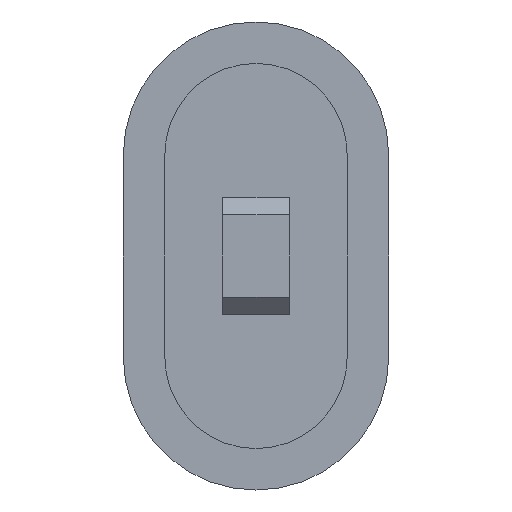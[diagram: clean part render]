
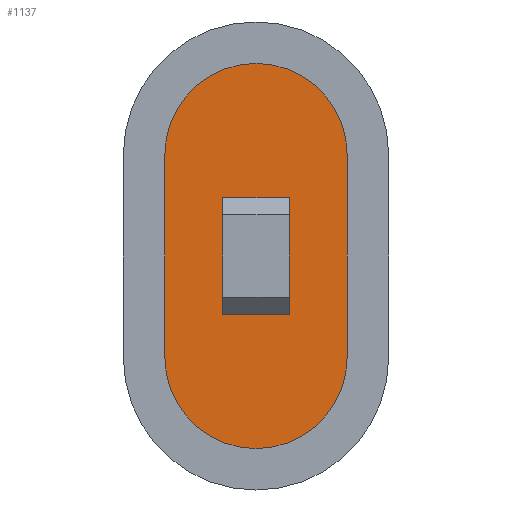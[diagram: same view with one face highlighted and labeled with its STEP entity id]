
A CAD part, front view. The second image highlights one B-rep face of the part: STEP entity #1137.
In plain terms, the highlighted planar face has unit normal (0, -1, 0).
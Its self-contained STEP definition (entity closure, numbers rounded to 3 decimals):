
#60=FACE_BOUND('',#201,.T.);
#127=FACE_OUTER_BOUND('',#200,.T.);
#200=EDGE_LOOP('',(#968,#969,#970,#971));
#201=EDGE_LOOP('',(#972,#973,#974,#975));
#208=CIRCLE('',#1182,5.5);
#209=CIRCLE('',#1185,5.5);
#295=LINE('',#1719,#377);
#301=LINE('',#1731,#383);
#304=LINE('',#1736,#386);
#305=LINE('',#1738,#387);
#308=LINE('',#1747,#390);
#311=LINE('',#1754,#393);
#377=VECTOR('',#1353,10.);
#383=VECTOR('',#1365,10.);
#386=VECTOR('',#1370,10.);
#387=VECTOR('',#1373,10.);
#390=VECTOR('',#1382,10.);
#393=VECTOR('',#1391,10.);
#460=VERTEX_POINT('',#1716);
#461=VERTEX_POINT('',#1718);
#464=VERTEX_POINT('',#1730);
#465=VERTEX_POINT('',#1734);
#466=VERTEX_POINT('',#1740);
#467=VERTEX_POINT('',#1742);
#468=VERTEX_POINT('',#1746);
#469=VERTEX_POINT('',#1750);
#557=EDGE_CURVE('',#461,#460,#295,.T.);
#563=EDGE_CURVE('',#464,#461,#301,.T.);
#566=EDGE_CURVE('',#460,#465,#304,.T.);
#567=EDGE_CURVE('',#465,#464,#305,.T.);
#569=EDGE_CURVE('',#467,#466,#208,.T.);
#571=EDGE_CURVE('',#468,#467,#308,.T.);
#573=EDGE_CURVE('',#469,#468,#209,.T.);
#575=EDGE_CURVE('',#466,#469,#311,.T.);
#968=ORIENTED_EDGE('',*,*,#569,.T.);
#969=ORIENTED_EDGE('',*,*,#575,.T.);
#970=ORIENTED_EDGE('',*,*,#573,.T.);
#971=ORIENTED_EDGE('',*,*,#571,.T.);
#972=ORIENTED_EDGE('',*,*,#563,.T.);
#973=ORIENTED_EDGE('',*,*,#557,.T.);
#974=ORIENTED_EDGE('',*,*,#566,.T.);
#975=ORIENTED_EDGE('',*,*,#567,.T.);
#1002=PLANE('',#1295);
#1137=ADVANCED_FACE('',(#127,#60),#1002,.T.);
#1182=AXIS2_PLACEMENT_3D('',#1743,#1377,#1378);
#1185=AXIS2_PLACEMENT_3D('',#1751,#1386,#1387);
#1295=AXIS2_PLACEMENT_3D('',#1959,#1648,#1649);
#1353=DIRECTION('',(0.,0.,-1.));
#1365=DIRECTION('',(1.,0.,0.));
#1370=DIRECTION('',(-1.,0.,0.));
#1373=DIRECTION('',(0.,0.,1.));
#1377=DIRECTION('center_axis',(0.,-1.,0.));
#1378=DIRECTION('ref_axis',(-1.,0.,0.));
#1382=DIRECTION('',(0.,0.,1.));
#1386=DIRECTION('center_axis',(0.,-1.,0.));
#1387=DIRECTION('ref_axis',(1.,0.,0.));
#1391=DIRECTION('',(0.,0.,-1.));
#1648=DIRECTION('center_axis',(0.,-1.,0.));
#1649=DIRECTION('ref_axis',(0.,0.,-1.));
#1716=CARTESIAN_POINT('',(2.,0.,-3.5));
#1718=CARTESIAN_POINT('',(2.,0.,3.5));
#1719=CARTESIAN_POINT('',(2.,0.,-1.75));
#1730=CARTESIAN_POINT('',(-2.,0.,3.5));
#1731=CARTESIAN_POINT('',(1.,0.,3.5));
#1734=CARTESIAN_POINT('',(-2.,0.,-3.5));
#1736=CARTESIAN_POINT('',(-1.,0.,-3.5));
#1738=CARTESIAN_POINT('',(-2.,0.,1.75));
#1740=CARTESIAN_POINT('',(-5.5,0.,6.115));
#1742=CARTESIAN_POINT('',(5.5,0.,6.115));
#1743=CARTESIAN_POINT('Origin',(0.,0.,
6.115));
#1746=CARTESIAN_POINT('',(5.5,0.,-6.115));
#1747=CARTESIAN_POINT('',(5.5,0.,-3.058));
#1750=CARTESIAN_POINT('',(-5.5,0.,-6.116));
#1751=CARTESIAN_POINT('Origin',(0.,0.,
-6.116));
#1754=CARTESIAN_POINT('',(-5.5,0.,3.058));
#1959=CARTESIAN_POINT('Origin',(0.,0.,
0.));
